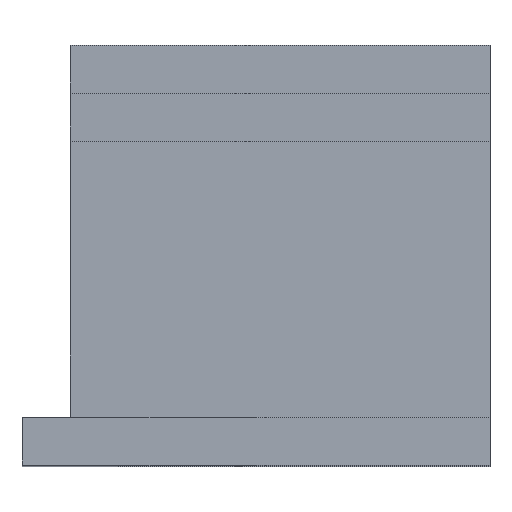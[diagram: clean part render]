
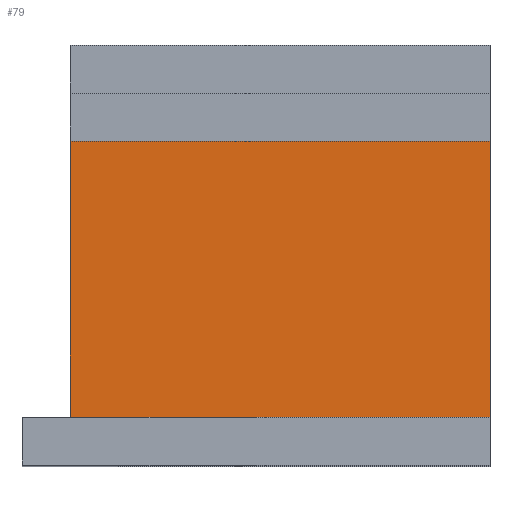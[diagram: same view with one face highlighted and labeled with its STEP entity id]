
A CAD part, top view. The second image highlights one B-rep face of the part: STEP entity #79.
In plain terms, the highlighted planar face has unit normal (0, 0, 1).
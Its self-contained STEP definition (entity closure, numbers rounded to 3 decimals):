
#79 = ADVANCED_FACE( '', ( #107 ), #108, .T. );
#107 = FACE_OUTER_BOUND( '', #153, .T. );
#108 = PLANE( '', #154 );
#153 = EDGE_LOOP( '', ( #228, #229, #230, #231 ) );
#154 = AXIS2_PLACEMENT_3D( '', #232, #233, #234 );
#228 = ORIENTED_EDGE( '', *, *, #410, .T. );
#229 = ORIENTED_EDGE( '', *, *, #411, .F. );
#230 = ORIENTED_EDGE( '', *, *, #391, .T. );
#231 = ORIENTED_EDGE( '', *, *, #412, .T. );
#232 = CARTESIAN_POINT( '', ( 2., -15.5, 32. ) );
#233 = DIRECTION( '', ( 0., 0., 1. ) );
#234 = DIRECTION( '', ( 0., -1., 0. ) );
#391 = EDGE_CURVE( '', #460, #458, #461, .T. );
#410 = EDGE_CURVE( '', #496, #497, #498, .T. );
#411 = EDGE_CURVE( '', #460, #497, #499, .T. );
#412 = EDGE_CURVE( '', #458, #496, #500, .T. );
#458 = VERTEX_POINT( '', #567 );
#460 = VERTEX_POINT( '', #570 );
#461 = LINE( '', #571, #572 );
#496 = VERTEX_POINT( '', #622 );
#497 = VERTEX_POINT( '', #623 );
#498 = LINE( '', #624, #625 );
#499 = LINE( '', #626, #627 );
#500 = LINE( '', #628, #629 );
#567 = CARTESIAN_POINT( '', ( 0., -15.5, 32. ) );
#570 = CARTESIAN_POINT( '', ( 0., -4., 32. ) );
#571 = CARTESIAN_POINT( '', ( 0., -4., 32. ) );
#572 = VECTOR( '', #721, 1. );
#622 = CARTESIAN_POINT( '', ( 17.5, -15.5, 32. ) );
#623 = CARTESIAN_POINT( '', ( 17.5, -4., 32. ) );
#624 = CARTESIAN_POINT( '', ( 17.5, -4., 32. ) );
#625 = VECTOR( '', #746, 1. );
#626 = CARTESIAN_POINT( '', ( 2., -4., 32. ) );
#627 = VECTOR( '', #747, 1. );
#628 = CARTESIAN_POINT( '', ( 2., -15.5, 32. ) );
#629 = VECTOR( '', #748, 1. );
#721 = DIRECTION( '', ( 0., -1., 0. ) );
#746 = DIRECTION( '', ( 0., 1., 0. ) );
#747 = DIRECTION( '', ( 1., 0., 0. ) );
#748 = DIRECTION( '', ( 1., 0., 0. ) );
